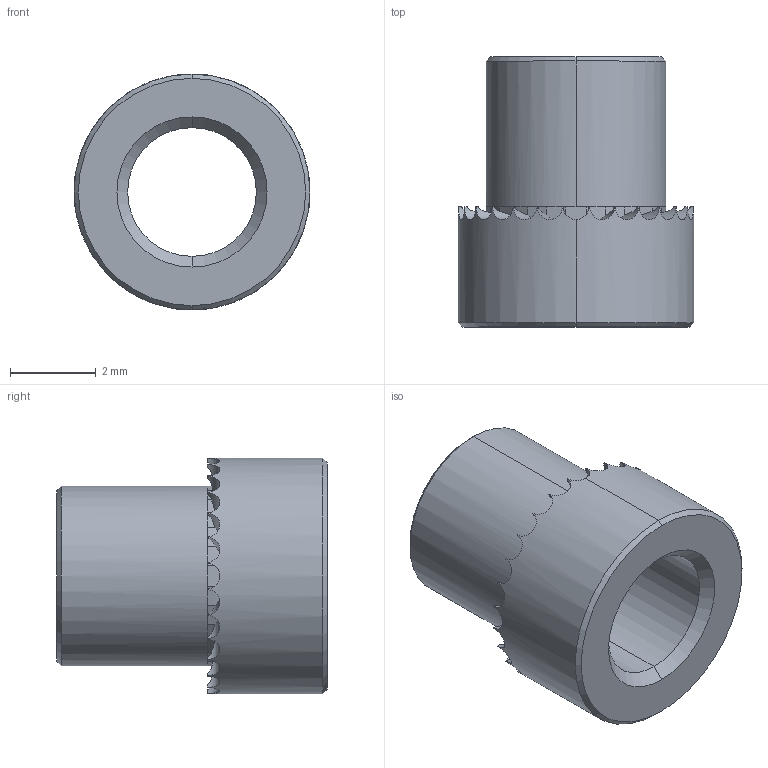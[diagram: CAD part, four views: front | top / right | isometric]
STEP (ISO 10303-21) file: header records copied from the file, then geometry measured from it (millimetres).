
FILE_DESCRIPTION (( 'STEP AP203' ), '1' );
FILE_NAME ('P0829.030-10G-ZP.step', '2019-03-21T22:14:03', ( '' ), ( '' ), 'SwSTEP 2.0', 'SolidWorks 2017', '' );
FILE_SCHEMA (( 'CONFIG_CONTROL_DESIGN' ));
Length unit declared in the file: millimetre
Products named in the file (1): P0829.030-10G-ZP
Bounding box: 5.5 x 6.3 x 5.5 mm (x, y, z)
Volume: 67 mm3; surface area: 185.3 mm2
Topology: 1 solids, 1 shells, 128 faces, 312 edges, 186 vertices
Faces by surface type: plane 86, cylinder 34, cone 8
Entity records: 3963 total; most frequent: CARTESIAN_POINT 965, ORIENTED_EDGE 624, DIRECTION 612, EDGE_CURVE 312, AXIS2_PLACEMENT_3D 229, VERTEX_POINT 186, LINE 154, VECTOR 154
